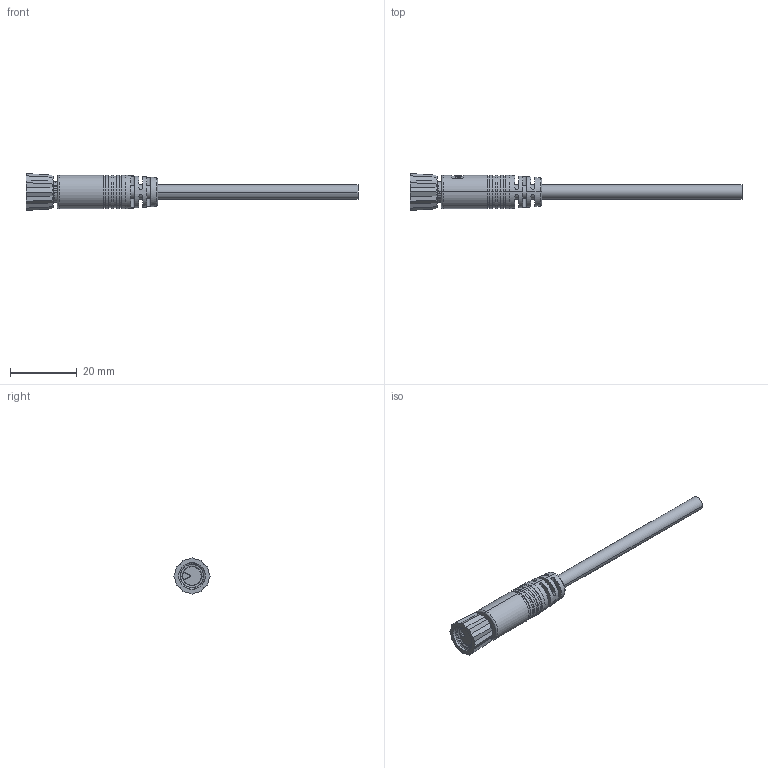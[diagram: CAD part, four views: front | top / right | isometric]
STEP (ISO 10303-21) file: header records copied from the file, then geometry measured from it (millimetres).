
FILE_DESCRIPTION((''),'2;1');
FILE_NAME('8AP-02AFFM-SL7AXX_ASM','2021-07-27T',('L100003'),(''),'PRO/ENGINEER BY PARAMETRIC TECHNOLOGY CORPORATION, 2017170','PRO/ENGINEER BY PARAMETRIC TECHNOLOGY CORPORATION, 2017170','');
FILE_SCHEMA(('CONFIG_CONTROL_DESIGN'));
Length unit declared in the file: millimetre
Products named in the file (2): MSBR-1; 8AP-02AFFM-SL7AXX_ASM
Assembly tree (1 placements, depth 2):
  8AP-02AFFM-SL7AXX_ASM
    MSBR-1
Bounding box: 99.4 x 11 x 11 mm (x, y, z)
Volume: 3395.7 mm3; surface area: 2948.2 mm2
Topology: 1 solids, 1 shells, 509 faces, 1412 edges, 939 vertices
Faces by surface type: extrusion 172, cylinder 158, plane 152, cone 11, torus 9, bspline 5, sphere 2
Entity records: 23727 total; most frequent: CARTESIAN_POINT 7426, ORIENTED_EDGE 2824, DIRECTION 2106, EDGE_CURVE 1412, VERTEX_POINT 939, VECTOR 758, AXIS2_PLACEMENT_3D 674, B_SPLINE_CURVE_WITH_KNOTS 659
